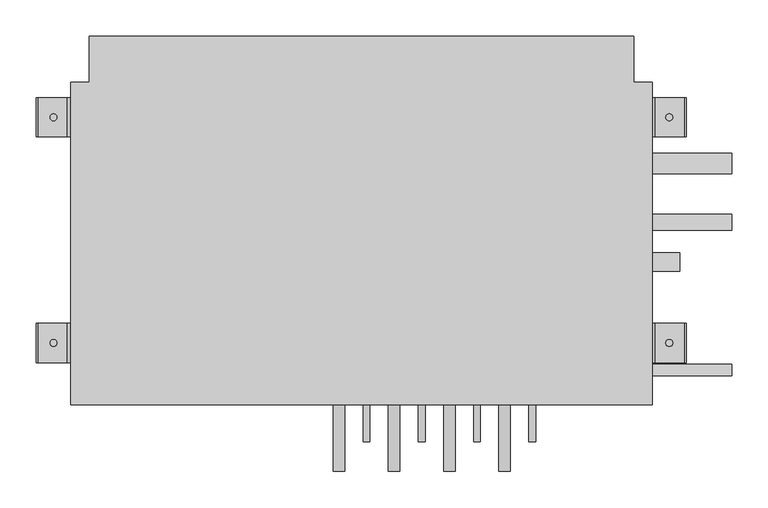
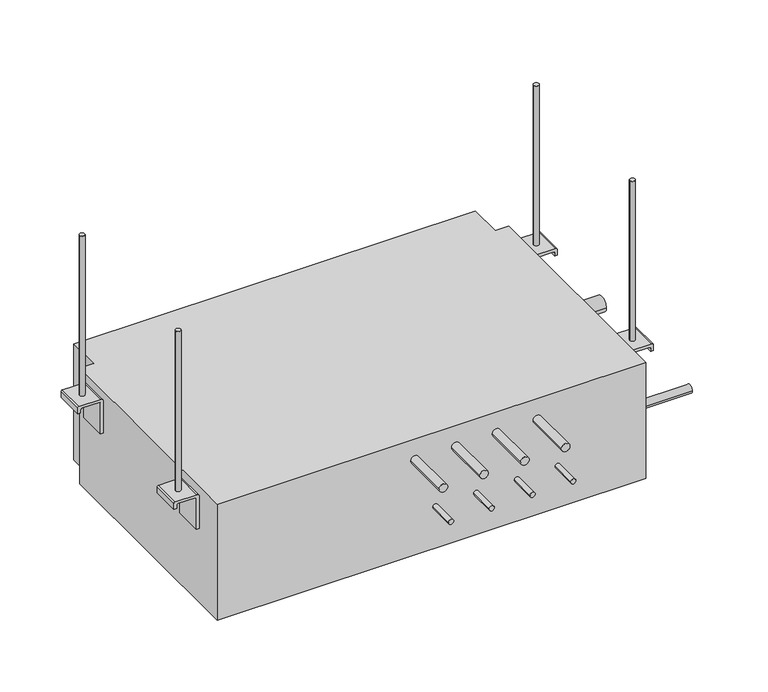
"""IFC4 building model written with IfcOpenShell, lengths in millimetres: proxy geometry, Lennox-VRF-Mode_Selection_Box-V8MSBB03-2P_Series : V8MSBB03."""

import ifcopenshell
import ifcopenshell.guid

model = None  # the IFC model being written
_history = None  # IfcOwnerHistory: only IFC2X3 demands one
_inside = {}  # id of a spatial element -> (the spatial element, [elements in it])
_under = {}  # id of a project, library or spatial element -> (it, [spatial elements below it])
_declared = {}  # id of a project -> (the project, [libraries it declares])
_typed = {}  # id of a type object -> (the type object, [elements of that type])
_made_of = {}  # id of a material, layer set ... -> (it, [elements and type objects made of it])


def new_model(schema):
    """Start an empty IFC model of exactly this schema.

    Asked for "IFC4X3", IfcOpenShell would pick the latest addendum, in which some entities
    have other attributes; the version numbers below select the first issue.
    IFC2X3 requires an IfcOwnerHistory on every rooted entity: one is made here for all.
    """
    global model, _history
    if schema == "IFC4X3":
        model = ifcopenshell.file(schema_version=(4, 3, 0, 0))
    else:
        model = ifcopenshell.file(schema=schema)
    _inside.clear()
    _under.clear()
    _declared.clear()
    _typed.clear()
    _made_of.clear()
    _history = None
    if model.schema == "IFC2X3":
        org = make("IfcOrganization", Name="unknown")
        user = make(
            "IfcPersonAndOrganization",
            ThePerson=make("IfcPerson", FamilyName="unknown"),
            TheOrganization=org,
        )
        app = make(
            "IfcApplication",
            ApplicationDeveloper=org,
            Version="unknown",
            ApplicationFullName="unknown",
            ApplicationIdentifier="unknown",
        )
        _history = make(
            "IfcOwnerHistory",
            OwningUser=user,
            OwningApplication=app,
            ChangeAction="ADDED",
            CreationDate=0,
        )
    return model


def make(cls, **values):
    """One entity of the class cls with the attributes given. An attribute that is None is left unset."""
    return model.create_entity(
        cls, **{name: value for name, value in values.items() if value is not None}
    )


def rooted(cls, **values):
    """An entity with a GlobalId (a new one), such as an element, a storey or a relation."""
    return make(cls, GlobalId=ifcopenshell.guid.new(), OwnerHistory=_history, **values)


def si_unit(unit_type, name, prefix=None):
    """IfcSIUnit, for example si_unit("LENGTHUNIT", "METRE", prefix="MILLI")."""
    return make("IfcSIUnit", UnitType=unit_type, Prefix=prefix, Name=name)


def assignment(units):
    """IfcUnitAssignment: the units of a project."""
    return None if units is None else make("IfcUnitAssignment", Units=units)


def point(xyz):
    """IfcCartesianPoint."""
    return None if xyz is None else make("IfcCartesianPoint", Coordinates=xyz)


def direction(xyz):
    """IfcDirection."""
    return None if xyz is None else make("IfcDirection", DirectionRatios=xyz)


def frame(location, z_axis=None, x_axis=None):
    """IfcAxis2Placement3D, a coordinate frame: its origin and axes. An axis left out is left unset."""
    return make(
        "IfcAxis2Placement3D",
        Location=point(location),
        Axis=direction(z_axis),
        RefDirection=direction(x_axis),
    )


def frame_2d(location, x_axis=None):
    """IfcAxis2Placement2D, a coordinate frame in the plane: its origin and x axis."""
    return make(
        "IfcAxis2Placement2D", Location=point(location), RefDirection=direction(x_axis)
    )


def origin():
    """The frame at (0, 0, 0) with its axes left unset."""
    return frame((0.0, 0.0, 0.0))


def origin_with_axes():
    """The frame at (0, 0, 0) with the z axis (0, 0, 1) and the x axis (1, 0, 0) written out."""
    return frame((0.0, 0.0, 0.0), z_axis=(0.0, 0.0, 1.0), x_axis=(1.0, 0.0, 0.0))


def place(relative_to, where):
    """IfcLocalPlacement: puts the frame where relative to a parent placement (None: the world)."""
    return make(
        "IfcLocalPlacement", PlacementRelTo=relative_to, RelativePlacement=where
    )


def context(
    kind, dimensions, precision=None, world=None, true_north=None, identifier=None
):
    """IfcGeometricRepresentationContext, for example the 3D "Model" context."""
    return make(
        "IfcGeometricRepresentationContext",
        ContextIdentifier=identifier,
        ContextType=kind,
        CoordinateSpaceDimension=dimensions,
        Precision=precision,
        WorldCoordinateSystem=world,
        TrueNorth=true_north,
    )


def project(units=None, contexts=None):
    """IfcProject with its units and contexts."""
    return rooted(
        "IfcProject",
        Name="project",
        RepresentationContexts=contexts,
        UnitsInContext=assignment(units),
    )


def spatial(cls, under=None, at=None, **own):
    """A site, building, storey or space (cls), placed at a placement, below another one or the project."""
    s = rooted(cls, ObjectPlacement=at, **own)
    if under is not None:
        _under.setdefault(under.id(), (under, []))[1].append(s)
    return s


def polyline(points):
    """IfcPolyline through the points."""
    return make("IfcPolyline", Points=[point(p) for p in points])


def circle_curve(where, radius):
    """IfcCircle in the frame where."""
    return make("IfcCircle", Position=where, Radius=radius)


def trimmed(basis, trim1, trim2, sense, master):
    """IfcTrimmedCurve: the piece of a basis curve between two trims."""
    return make(
        "IfcTrimmedCurve",
        BasisCurve=basis,
        Trim1=trim1,
        Trim2=trim2,
        SenseAgreement=sense,
        MasterRepresentation=master,
    )


def segment(curve, same_sense, transition):
    """IfcCompositeCurveSegment."""
    return make(
        "IfcCompositeCurveSegment",
        Transition=transition,
        SameSense=same_sense,
        ParentCurve=curve,
    )


def composite_curve(segments, self_intersect=None):
    """IfcCompositeCurve: segments joined end to end."""
    return make("IfcCompositeCurve", Segments=segments, SelfIntersect=self_intersect)


def outline(outer, holes=None, kind="AREA"):
    """IfcArbitraryClosedProfileDef: a profile drawn as a closed curve; with holes, ...WithVoids."""
    if holes is None:
        return make("IfcArbitraryClosedProfileDef", ProfileType=kind, OuterCurve=outer)
    return make(
        "IfcArbitraryProfileDefWithVoids",
        ProfileType=kind,
        OuterCurve=outer,
        InnerCurves=holes,
    )


def extrude(swept, where, along, depth):
    """IfcExtrudedAreaSolid: the profile swept, set in the frame where, extruded along a direction by depth."""
    return make(
        "IfcExtrudedAreaSolid",
        SweptArea=swept,
        Position=where,
        ExtrudedDirection=direction(along),
        Depth=depth,
    )


def shape(context_of_items, identifier, shape_type, items):
    """IfcShapeRepresentation: the items that make up one representation, for example the "Body"."""
    return make(
        "IfcShapeRepresentation",
        ContextOfItems=context_of_items,
        RepresentationIdentifier=identifier,
        RepresentationType=shape_type,
        Items=items,
    )


def source(mapping_origin, context_of_items, identifier, shape_type, items):
    """IfcRepresentationMap: a shape defined once, which mapped items show again and again."""
    return make(
        "IfcRepresentationMap",
        MappingOrigin=mapping_origin,
        MappedRepresentation=shape(context_of_items, identifier, shape_type, items),
    )


def transform(
    local_origin,
    x_axis=None,
    y_axis=None,
    z_axis=None,
    scale=None,
    scale2=None,
    scale3=None,
    uniform=True,
):
    """IfcCartesianTransformationOperator3D, or its non-uniform kind. x_axis, y_axis, z_axis: its Axis1, 2, 3."""
    if uniform:
        return make(
            "IfcCartesianTransformationOperator3D",
            Axis1=direction(x_axis),
            Axis2=direction(y_axis),
            LocalOrigin=point(local_origin),
            Scale=scale,
            Axis3=direction(z_axis),
        )
    return make(
        "IfcCartesianTransformationOperator3DnonUniform",
        Axis1=direction(x_axis),
        Axis2=direction(y_axis),
        LocalOrigin=point(local_origin),
        Scale=scale,
        Axis3=direction(z_axis),
        Scale2=scale2,
        Scale3=scale3,
    )


def mapped(mapping_source, mapping_target):
    """IfcMappedItem: shows the shape of a source again, moved by a transform."""
    return make(
        "IfcMappedItem", MappingSource=mapping_source, MappingTarget=mapping_target
    )


def made_of(thing, what):
    """Note that an element or type object is made of a material, layer set ...; save() writes the relation."""
    if what is not None:
        _made_of.setdefault(what.id(), (what, []))[1].append(thing)
    return thing


def element(
    cls,
    number,
    at=None,
    inside=None,
    cuts=None,
    type_object=None,
    material=None,
    context=None,
    identifier="Body",
    shape_type=None,
    held_by="IfcProductDefinitionShape",
    body=None,
    shapes=None,
    **own,
):
    """One element of the class cls, such as IfcWall. Its Tag is "e" and its number.

    at: its placement. inside: the storey or other place that contains it. cuts: it is an
    opening in that element (IfcRelVoidsElement). A single representation is given by context,
    identifier, shape_type and body (its items); several are given by shapes. held_by: the class
    of the entity that holds the representations. save() writes the other relations.
    """
    e = rooted(cls, Tag="e%d" % number, ObjectPlacement=at, **own)
    if body is not None:
        shapes = [shape(context, identifier, shape_type, body)]
    if shapes is not None:
        e.Representation = make(held_by, Representations=shapes)
    if inside is not None:
        _inside.setdefault(inside.id(), (inside, []))[1].append(e)
    if cuts is not None:
        rooted(
            "IfcRelVoidsElement", RelatingBuildingElement=cuts, RelatedOpeningElement=e
        )
    if type_object is not None:
        _typed.setdefault(type_object.id(), (type_object, []))[1].append(e)
    return made_of(e, material)


def aggregate(whole, parts):
    """IfcRelAggregates: a whole, such as a stair, and the parts it consists of."""
    return rooted("IfcRelAggregates", RelatingObject=whole, RelatedObjects=parts)


def save(model, path):
    """Write the relations noted so far, then the file.

    IfcRelAggregates (storeys below a building ...), IfcRelContainedInSpatialStructure (elements
    in a storey), IfcRelDefinesByType, IfcRelAssociatesMaterial and IfcRelDeclares: one each for
    every whole, place, type object, material and project.
    """
    for whole, parts in _under.values():
        aggregate(whole, parts)
    for where, things in _inside.values():
        rooted(
            "IfcRelContainedInSpatialStructure",
            RelatedElements=things,
            RelatingStructure=where,
        )
    for kind, things in _typed.values():
        rooted("IfcRelDefinesByType", RelatedObjects=things, RelatingType=kind)
    for what, things in _made_of.values():
        rooted("IfcRelAssociatesMaterial", RelatedObjects=things, RelatingMaterial=what)
    for by, libraries in _declared.values():
        rooted("IfcRelDeclares", RelatingContext=by, RelatedDefinitions=libraries)
    model.write(path)


def plane_surface(at):
    """IfcPlane: the flat surface through the origin of the frame at, square to its z axis."""
    return make("IfcPlane", Position=at)


def cylinder_surface(at, radius):
    """IfcCylindricalSurface: all points at the distance radius from the z axis of the frame at."""
    return make("IfcCylindricalSurface", Position=at, Radius=radius)


def revolved_surface(curve, axis_point, axis_direction):
    """IfcSurfaceOfRevolution: the curve turned about the line through axis_point along axis_direction."""
    return make(
        "IfcSurfaceOfRevolution",
        SweptCurve=make("IfcArbitraryOpenProfileDef", ProfileType="CURVE", Curve=curve),
        AxisPosition=make("IfcAxis1Placement", Location=point(axis_point), Axis=direction(axis_direction)),
    )


def advanced_brep(points, edges, surfaces, faces):
    """IfcAdvancedBrep: a solid bounded by faces that lie on surfaces and meet in shared edges.

    An edge is (start, end): straight between two places in points (the first is 0);
    or (start, end, curve); or (start, end, curve, False) where it runs against its curve.
    A face is (place in surfaces, loops), or (place, loops, False) where it looks against
    its surface's normal. A loop lists edges by number (the first is 1), with a minus sign
    where the edge is run from its end to its start. The first loop is the outer one.
    """
    corners = [point(p) for p in points]
    vertices = [make("IfcVertexPoint", VertexGeometry=c) for c in corners]
    made = []
    for start, end, *more in edges:
        made.append(
            make(
                "IfcEdgeCurve",
                EdgeStart=vertices[start],
                EdgeEnd=vertices[end],
                EdgeGeometry=more[0] if more else make("IfcPolyline", Points=[corners[start], corners[end]]),
                SameSense=more[1] if len(more) > 1 else True,
            )
        )
    hull = []
    for where, loops, *sense in faces:
        bounds = []
        for j, loop in enumerate(loops):
            ring = [make("IfcOrientedEdge", EdgeElement=made[abs(k) - 1], Orientation=k > 0) for k in loop]
            bounds.append(
                make(
                    "IfcFaceOuterBound" if j == 0 else "IfcFaceBound",
                    Bound=make("IfcEdgeLoop", EdgeList=ring),
                    Orientation=True,
                )
            )
        hull.append(make("IfcAdvancedFace", Bounds=bounds, FaceSurface=surfaces[where], SameSense=sense[0] if sense else True))
    return make("IfcAdvancedBrep", Outer=make("IfcClosedShell", CfsFaces=hull))


def mechanical_equipment_f876f0b1(model_context):
    return source(origin(), model_context, "Body", "SolidModel", [
        advanced_brep(
        [(-400.7941406, 115.2882187, 146.05), (-400.7941406, 115.2882187, 210.0259829), (-405.3981577, 115.2882187, 214.63), (-445.7521406, 115.2882187, 214.63), (-448.2921406, 115.2882187, 212.09), (-448.2921406, 115.2882187, 200.66), (-443.2121406, 115.2882187, 200.66), (-443.2121406, 115.2882187, 207.01), (-440.6721406, 115.2882187, 209.55), (-408.4141406, 115.2882187, 209.55), (-405.8741406, 115.2882187, 207.01), (-405.8741406, 115.2882187, 146.05), (-400.7941406, 169.164, 146.05), (-405.8741406, 169.164, 146.05), (-405.8741406, 169.164, 207.01), (-408.4141406, 169.164, 209.55), (-440.6721406, 169.164, 209.55), (-443.2121406, 169.164, 207.01), (-443.2121406, 169.164, 200.66), (-448.2921406, 169.164, 200.66), (-448.2921406, 169.164, 212.09), (-445.7521406, 169.164, 214.63), (-405.3981577, 169.164, 214.63), (-400.7941406, 169.164, 210.0259829), (-419.7806406, 142.2261094, 214.63), (-429.3056406, 142.2261094, 214.63), (-429.3056406, 142.2261094, 209.55), (-419.7806406, 142.2261094, 209.55), (-429.3056406, 142.2261094, 530.625), (-419.7806406, 142.2261094, 530.625), (-429.3056406, 142.2261094, 198.8375), (-419.7806406, 142.2261094, 198.8375)],
        [
            (0, 1),
            (1, 2, circle_curve(frame((-405.3981577, 115.2882187, 210.0259829), z_axis=(0.0, -1.0, 0.0), x_axis=(1.0, 0.0, 0.0)), 4.6040171)),
            (2, 3),
            (3, 4, circle_curve(frame((-445.7521406, 115.2882187, 212.09), z_axis=(0.0, -1.0, 0.0), x_axis=(1.0, 0.0, 0.0)), 2.54)),
            (4, 5),
            (5, 6),
            (6, 7),
            (7, 8, circle_curve(frame((-440.6721406, 115.2882187, 207.01), z_axis=(0.0, 1.0, 0.0), x_axis=(1.0, 0.0, 0.0)), 2.54)),
            (8, 9),
            (9, 10, circle_curve(frame((-408.4141406, 115.2882187, 207.01), z_axis=(0.0, 1.0, 0.0), x_axis=(1.0, 0.0, 0.0)), 2.54)),
            (10, 11),
            (11, 0),
            (12, 13),
            (13, 14),
            (14, 15, circle_curve(frame((-408.4141406, 169.164, 207.01), z_axis=(0.0, -1.0, 0.0), x_axis=(1.0, 0.0, 0.0)), 2.54)),
            (15, 16),
            (16, 17, circle_curve(frame((-440.6721406, 169.164, 207.01), z_axis=(0.0, -1.0, 0.0), x_axis=(1.0, 0.0, 0.0)), 2.54)),
            (17, 18),
            (18, 19),
            (19, 20),
            (20, 21, circle_curve(frame((-445.7521406, 169.164, 212.09), z_axis=(0.0, 1.0, 0.0), x_axis=(1.0, 0.0, 0.0)), 2.54)),
            (21, 22),
            (22, 23, circle_curve(frame((-405.3981577, 169.164, 210.0259829), z_axis=(0.0, 1.0, 0.0), x_axis=(1.0, 0.0, 0.0)), 4.6040171)),
            (23, 12),
            (0, 12),
            (23, 1),
            (22, 2),
            (21, 3),
            (24, 25, circle_curve(frame((-424.5431406, 142.2261094, 214.63), z_axis=(0.0, 0.0, -1.0), x_axis=(1.0, 0.0, 0.0)), 4.7625)),
            (25, 24, circle_curve(frame((-424.5431406, 142.2261094, 214.63), z_axis=(0.0, 0.0, -1.0), x_axis=(1.0, 0.0, 0.0)), 4.7625)),
            (20, 4),
            (19, 5),
            (18, 6),
            (17, 7),
            (16, 8),
            (15, 9),
            (26, 27, circle_curve(frame((-424.5431406, 142.2261094, 209.55), z_axis=(0.0, 0.0, 1.0), x_axis=(1.0, 0.0, 0.0)), 4.7625)),
            (27, 26, circle_curve(frame((-424.5431406, 142.2261094, 209.55), z_axis=(0.0, 0.0, 1.0), x_axis=(1.0, 0.0, 0.0)), 4.7625)),
            (14, 10),
            (13, 11),
            (28, 29, circle_curve(frame((-424.5431406, 142.2261094, 530.625), z_axis=(0.0, 0.0, 1.0), x_axis=(1.0, 0.0, 0.0)), 4.7625)),
            (29, 28, circle_curve(frame((-424.5431406, 142.2261094, 530.625), z_axis=(0.0, 0.0, 1.0), x_axis=(1.0, 0.0, 0.0)), 4.7625)),
            (30, 31, circle_curve(frame((-424.5431406, 142.2261094, 198.8375), z_axis=(0.0, 0.0, -1.0), x_axis=(1.0, 0.0, 0.0)), 4.7625)),
            (31, 30, circle_curve(frame((-424.5431406, 142.2261094, 198.8375), z_axis=(0.0, 0.0, -1.0), x_axis=(1.0, 0.0, 0.0)), 4.7625)),
            (28, 25),
            (24, 29),
            (31, 27),
            (26, 30),
        ],
        [
            plane_surface(frame((-400.7941406, 115.2882187, 210.0259829), z_axis=(0.0, -1.0, 0.0), x_axis=(0.0, 0.0, 1.0))),
            plane_surface(frame((-400.7941406, 169.164, 210.0259829), z_axis=(0.0, 1.0, 0.0), x_axis=(0.0, 0.0, -1.0))),
            plane_surface(frame((-400.7941406, 115.2882187, 146.05), z_axis=(1.0, 0.0, 0.0), x_axis=(0.0, 1.0, 0.0))),
            cylinder_surface(frame((-405.3981577, 169.164, 210.0259829), z_axis=(0.0, -1.0, 0.0), x_axis=(1.0, 0.0, 0.0)), 4.6040171),
            plane_surface(frame((-405.3981577, 115.2882187, 214.63), z_axis=(0.0, 0.0, 1.0), x_axis=(0.0, 1.0, 0.0))),
            cylinder_surface(frame((-445.7521406, 169.164, 212.09), z_axis=(0.0, -1.0, 0.0), x_axis=(1.0, 0.0, 0.0)), 2.54),
            plane_surface(frame((-448.2921406, 115.2882187, 212.09), z_axis=(-1.0, 0.0, 0.0), x_axis=(0.0, 1.0, 0.0))),
            plane_surface(frame((-448.2921406, 115.2882187, 200.66), z_axis=(0.0, 0.0, -1.0), x_axis=(0.0, 1.0, 0.0))),
            plane_surface(frame((-443.2121406, 115.2882187, 200.66), z_axis=(1.0, 0.0, 0.0), x_axis=(0.0, 1.0, 0.0))),
            revolved_surface(polyline([(-438.13214059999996, 169.164, 207.01), (-438.13214059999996, 115.2882187, 207.01)]), (-440.6721406, 169.164, 207.01), (0.0, 1.0, 0.0)),
            plane_surface(frame((-440.6721406, 115.2882187, 209.55), z_axis=(0.0, 0.0, -1.0), x_axis=(0.0, 1.0, 0.0))),
            revolved_surface(polyline([(-405.8741406, 169.164, 207.01), (-405.8741406, 115.2882187, 207.01)]), (-408.4141406, 169.164, 207.01), (0.0, 1.0, 0.0)),
            plane_surface(frame((-405.8741406, 115.2882187, 207.01), z_axis=(-1.0, 0.0, 0.0), x_axis=(0.0, 1.0, 0.0))),
            plane_surface(frame((-405.8741406, 115.2882187, 146.05), z_axis=(0.0, 0.0, -1.0), x_axis=(0.0, 1.0, 0.0))),
            plane_surface(frame((429.3056406, 142.2261094, 530.625), z_axis=(0.0, 0.0, 1.0), x_axis=(0.0, 1.0, 0.0))),
            plane_surface(frame((429.3056406, 142.2261094, 198.8375), z_axis=(0.0, 0.0, -1.0), x_axis=(0.0, -1.0, 0.0))),
            cylinder_surface(frame((-424.5431406, 142.2261094, 0.0), z_axis=(0.0, 0.0, 1.0), x_axis=(1.0, 0.0, 0.0)), 4.7625),
        ],
        [
            (0, [[1, 2, 3, 4, 5, 6, 7, 8, 9, 10, 11, 12]]),
            (1, [[13, 14, 15, 16, 17, 18, 19, 20, 21, 22, 23, 24]]),
            (2, [[-1, 25, -24, 26]]),
            (3, [[-2, -26, -23, 27]]),
            (4, [[-3, -27, -22, 28], [29, 30]]),
            (5, [[-4, -28, -21, 31]]),
            (6, [[-5, -31, -20, 32]]),
            (7, [[-6, -32, -19, 33]]),
            (8, [[-7, -33, -18, 34]]),
            (9, [[-8, -34, -17, 35]]),
            (10, [[-9, -35, -16, 36], [37, 38]]),
            (11, [[-10, -36, -15, 39]]),
            (12, [[-11, -39, -14, 40]]),
            (13, [[-12, -40, -13, -25]]),
            (14, [[41, 42]]),
            (15, [[43, 44]]),
            (16, [[-41, 45, -29, 46]]),
            (16, [[-44, 47, -37, 48]]),
            (16, [[-42, -46, -30, -45]]),
            (16, [[-43, -48, -38, -47]]),
        ],
    ),
        advanced_brep(
        [(-400.7941406, -195.834, 146.05), (-400.7941406, -195.834, 210.0259829), (-405.3981577, -195.834, 214.63), (-445.7521406, -195.834, 214.63), (-448.2921406, -195.834, 212.09), (-448.2921406, -195.834, 200.66), (-443.2121406, -195.834, 200.66), (-443.2121406, -195.834, 207.01), (-440.6721406, -195.834, 209.55), (-408.4141406, -195.834, 209.55), (-405.8741406, -195.834, 207.01), (-405.8741406, -195.834, 146.05), (-400.7941406, -141.986, 146.05), (-405.8741406, -141.986, 146.05), (-405.8741406, -141.986, 207.01), (-408.4141406, -141.986, 209.55), (-440.6721406, -141.986, 209.55), (-443.2121406, -141.986, 207.01), (-443.2121406, -141.986, 200.66), (-448.2921406, -141.986, 200.66), (-448.2921406, -141.986, 212.09), (-445.7521406, -141.986, 214.63), (-405.3981577, -141.986, 214.63), (-400.7941406, -141.986, 210.0259829), (-419.7806406, -168.91, 214.63), (-429.3056406, -168.91, 214.63), (-429.3056406, -168.91, 209.55), (-419.7806406, -168.91, 209.55), (-429.3056406, -168.91, 530.625), (-419.7806406, -168.91, 530.625), (-429.3056406, -168.91, 198.8375), (-419.7806406, -168.91, 198.8375)],
        [
            (0, 1),
            (1, 2, circle_curve(frame((-405.3981577, -195.834, 210.0259829), z_axis=(0.0, -1.0, 0.0), x_axis=(1.0, 0.0, 0.0)), 4.6040171)),
            (2, 3),
            (3, 4, circle_curve(frame((-445.7521406, -195.834, 212.09), z_axis=(0.0, -1.0, 0.0), x_axis=(1.0, 0.0, 0.0)), 2.54)),
            (4, 5),
            (5, 6),
            (6, 7),
            (7, 8, circle_curve(frame((-440.6721406, -195.834, 207.01), z_axis=(0.0, 1.0, 0.0), x_axis=(1.0, 0.0, 0.0)), 2.54)),
            (8, 9),
            (9, 10, circle_curve(frame((-408.4141406, -195.834, 207.01), z_axis=(0.0, 1.0, 0.0), x_axis=(1.0, 0.0, 0.0)), 2.54)),
            (10, 11),
            (11, 0),
            (12, 13),
            (13, 14),
            (14, 15, circle_curve(frame((-408.4141406, -141.986, 207.01), z_axis=(0.0, -1.0, 0.0), x_axis=(1.0, 0.0, 0.0)), 2.54)),
            (15, 16),
            (16, 17, circle_curve(frame((-440.6721406, -141.986, 207.01), z_axis=(0.0, -1.0, 0.0), x_axis=(1.0, 0.0, 0.0)), 2.54)),
            (17, 18),
            (18, 19),
            (19, 20),
            (20, 21, circle_curve(frame((-445.7521406, -141.986, 212.09), z_axis=(0.0, 1.0, 0.0), x_axis=(1.0, 0.0, 0.0)), 2.54)),
            (21, 22),
            (22, 23, circle_curve(frame((-405.3981577, -141.986, 210.0259829), z_axis=(0.0, 1.0, 0.0), x_axis=(1.0, 0.0, 0.0)), 4.6040171)),
            (23, 12),
            (0, 12),
            (23, 1),
            (22, 2),
            (21, 3),
            (24, 25, circle_curve(frame((-424.5431406, -168.91, 214.63), z_axis=(0.0, 0.0, -1.0), x_axis=(1.0, 0.0, 0.0)), 4.7625)),
            (25, 24, circle_curve(frame((-424.5431406, -168.91, 214.63), z_axis=(0.0, 0.0, -1.0), x_axis=(1.0, 0.0, 0.0)), 4.7625)),
            (20, 4),
            (19, 5),
            (18, 6),
            (17, 7),
            (16, 8),
            (15, 9),
            (26, 27, circle_curve(frame((-424.5431406, -168.91, 209.55), z_axis=(0.0, 0.0, 1.0), x_axis=(1.0, 0.0, 0.0)), 4.7625)),
            (27, 26, circle_curve(frame((-424.5431406, -168.91, 209.55), z_axis=(0.0, 0.0, 1.0), x_axis=(1.0, 0.0, 0.0)), 4.7625)),
            (14, 10),
            (13, 11),
            (28, 29, circle_curve(frame((-424.5431406, -168.91, 530.625), z_axis=(0.0, 0.0, 1.0), x_axis=(1.0, 0.0, 0.0)), 4.7625)),
            (29, 28, circle_curve(frame((-424.5431406, -168.91, 530.625), z_axis=(0.0, 0.0, 1.0), x_axis=(1.0, 0.0, 0.0)), 4.7625)),
            (30, 31, circle_curve(frame((-424.5431406, -168.91, 198.8375), z_axis=(0.0, 0.0, -1.0), x_axis=(1.0, 0.0, 0.0)), 4.7625)),
            (31, 30, circle_curve(frame((-424.5431406, -168.91, 198.8375), z_axis=(0.0, 0.0, -1.0), x_axis=(1.0, 0.0, 0.0)), 4.7625)),
            (28, 25),
            (24, 29),
            (31, 27),
            (26, 30),
        ],
        [
            plane_surface(frame((-400.7941406, -195.834, 210.0259829), z_axis=(0.0, -1.0, 0.0), x_axis=(0.0, 0.0, 1.0))),
            plane_surface(frame((-400.7941406, -141.986, 210.0259829), z_axis=(0.0, 1.0, 0.0), x_axis=(0.0, 0.0, -1.0))),
            plane_surface(frame((-400.7941406, -195.834, 146.05), z_axis=(1.0, 0.0, 0.0), x_axis=(0.0, 1.0, 0.0))),
            cylinder_surface(frame((-405.3981577, -141.986, 210.0259829), z_axis=(0.0, -1.0, 0.0), x_axis=(1.0, 0.0, 0.0)), 4.6040171),
            plane_surface(frame((-405.3981577, -195.834, 214.63), z_axis=(0.0, 0.0, 1.0), x_axis=(0.0, 1.0, 0.0))),
            cylinder_surface(frame((-445.7521406, -141.986, 212.09), z_axis=(0.0, -1.0, 0.0), x_axis=(1.0, 0.0, 0.0)), 2.54),
            plane_surface(frame((-448.2921406, -195.834, 212.09), z_axis=(-1.0, 0.0, 0.0), x_axis=(0.0, 1.0, 0.0))),
            plane_surface(frame((-448.2921406, -195.834, 200.66), z_axis=(0.0, 0.0, -1.0), x_axis=(0.0, 1.0, 0.0))),
            plane_surface(frame((-443.2121406, -195.834, 200.66), z_axis=(1.0, 0.0, 0.0), x_axis=(0.0, 1.0, 0.0))),
            revolved_surface(polyline([(-438.13214059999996, -141.986, 207.01), (-438.13214059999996, -195.834, 207.01)]), (-440.6721406, -141.986, 207.01), (0.0, 1.0, 0.0)),
            plane_surface(frame((-440.6721406, -195.834, 209.55), z_axis=(0.0, 0.0, -1.0), x_axis=(0.0, 1.0, 0.0))),
            revolved_surface(polyline([(-405.8741406, -141.986, 207.01), (-405.8741406, -195.834, 207.01)]), (-408.4141406, -141.986, 207.01), (0.0, 1.0, 0.0)),
            plane_surface(frame((-405.8741406, -195.834, 207.01), z_axis=(-1.0, 0.0, 0.0), x_axis=(0.0, 1.0, 0.0))),
            plane_surface(frame((-405.8741406, -195.834, 146.05), z_axis=(0.0, 0.0, -1.0), x_axis=(0.0, 1.0, 0.0))),
            plane_surface(frame((429.3056406, 142.2261094, 530.625), z_axis=(0.0, 0.0, 1.0), x_axis=(0.0, 1.0, 0.0))),
            plane_surface(frame((429.3056406, 142.2261094, 198.8375), z_axis=(0.0, 0.0, -1.0), x_axis=(0.0, -1.0, 0.0))),
            cylinder_surface(frame((-424.5431406, -168.91, 0.0), z_axis=(0.0, 0.0, 1.0), x_axis=(1.0, 0.0, 0.0)), 4.7625),
        ],
        [
            (0, [[1, 2, 3, 4, 5, 6, 7, 8, 9, 10, 11, 12]]),
            (1, [[13, 14, 15, 16, 17, 18, 19, 20, 21, 22, 23, 24]]),
            (2, [[-1, 25, -24, 26]]),
            (3, [[-2, -26, -23, 27]]),
            (4, [[-3, -27, -22, 28], [29, 30]]),
            (5, [[-4, -28, -21, 31]]),
            (6, [[-5, -31, -20, 32]]),
            (7, [[-6, -32, -19, 33]]),
            (8, [[-7, -33, -18, 34]]),
            (9, [[-8, -34, -17, 35]]),
            (10, [[-9, -35, -16, 36], [37, 38]]),
            (11, [[-10, -36, -15, 39]]),
            (12, [[-11, -39, -14, 40]]),
            (13, [[-12, -40, -13, -25]]),
            (14, [[41, 42]]),
            (15, [[43, 44]]),
            (16, [[-41, 45, -29, 46]]),
            (16, [[-44, 47, -37, 48]]),
            (16, [[-42, -46, -30, -45]]),
            (16, [[-43, -48, -38, -47]]),
        ],
    ),
        advanced_brep(
        [(405.8741406, 115.2882187, 146.05), (405.8741406, 115.2882187, 207.01), (408.4141406, 115.2882187, 209.55), (440.6721406, 115.2882187, 209.55), (443.2121406, 115.2882187, 207.01), (443.2121406, 115.2882187, 200.66), (448.2921406, 115.2882187, 200.66), (448.2921406, 115.2882187, 212.09), (445.7521406, 115.2882187, 214.63), (405.3981577, 115.2882187, 214.63), (400.7941406, 115.2882187, 210.0259829), (400.7941406, 115.2882187, 146.05), (405.8741406, 169.164, 146.05), (400.7941406, 169.164, 146.05), (400.7941406, 169.164, 210.0259829), (405.3981577, 169.164, 214.63), (445.7521406, 169.164, 214.63), (448.2921406, 169.164, 212.09), (448.2921406, 169.164, 200.66), (443.2121406, 169.164, 200.66), (443.2121406, 169.164, 207.01), (440.6721406, 169.164, 209.55), (408.4141406, 169.164, 209.55), (405.8741406, 169.164, 207.01), (419.7806406, 142.2261094, 209.55), (429.3056406, 142.2261094, 209.55), (429.3056406, 142.2261094, 214.63), (419.7806406, 142.2261094, 214.63), (419.7806406, 142.2261094, 530.625), (429.3056406, 142.2261094, 530.625), (419.7806406, 142.2261094, 198.8375), (429.3056406, 142.2261094, 198.8375)],
        [
            (0, 1),
            (1, 2, circle_curve(frame((408.4141406, 115.2882187, 207.01), z_axis=(0.0, 1.0, 0.0), x_axis=(1.0, 0.0, 0.0)), 2.54)),
            (2, 3),
            (3, 4, circle_curve(frame((440.6721406, 115.2882187, 207.01), z_axis=(0.0, 1.0, 0.0), x_axis=(1.0, 0.0, 0.0)), 2.54)),
            (4, 5),
            (5, 6),
            (6, 7),
            (7, 8, circle_curve(frame((445.7521406, 115.2882187, 212.09), z_axis=(0.0, -1.0, 0.0), x_axis=(1.0, 0.0, 0.0)), 2.54)),
            (8, 9),
            (9, 10, circle_curve(frame((405.3981577, 115.2882187, 210.0259829), z_axis=(0.0, -1.0, 0.0), x_axis=(1.0, 0.0, 0.0)), 4.6040171)),
            (10, 11),
            (11, 0),
            (12, 13),
            (13, 14),
            (14, 15, circle_curve(frame((405.3981577, 169.164, 210.0259829), z_axis=(0.0, 1.0, 0.0), x_axis=(1.0, 0.0, 0.0)), 4.6040171)),
            (15, 16),
            (16, 17, circle_curve(frame((445.7521406, 169.164, 212.09), z_axis=(0.0, 1.0, 0.0), x_axis=(1.0, 0.0, 0.0)), 2.54)),
            (17, 18),
            (18, 19),
            (19, 20),
            (20, 21, circle_curve(frame((440.6721406, 169.164, 207.01), z_axis=(0.0, -1.0, 0.0), x_axis=(1.0, 0.0, 0.0)), 2.54)),
            (21, 22),
            (22, 23, circle_curve(frame((408.4141406, 169.164, 207.01), z_axis=(0.0, -1.0, 0.0), x_axis=(1.0, 0.0, 0.0)), 2.54)),
            (23, 12),
            (0, 12),
            (23, 1),
            (22, 2),
            (21, 3),
            (24, 25, circle_curve(frame((424.5431406, 142.2261094, 209.55), z_axis=(0.0, 0.0, 1.0), x_axis=(1.0, 0.0, 0.0)), 4.7625)),
            (25, 24, circle_curve(frame((424.5431406, 142.2261094, 209.55), z_axis=(0.0, 0.0, 1.0), x_axis=(1.0, 0.0, 0.0)), 4.7625)),
            (20, 4),
            (19, 5),
            (18, 6),
            (17, 7),
            (16, 8),
            (15, 9),
            (26, 27, circle_curve(frame((424.5431406, 142.2261094, 214.63), z_axis=(0.0, 0.0, -1.0), x_axis=(1.0, 0.0, 0.0)), 4.7625)),
            (27, 26, circle_curve(frame((424.5431406, 142.2261094, 214.63), z_axis=(0.0, 0.0, -1.0), x_axis=(1.0, 0.0, 0.0)), 4.7625)),
            (14, 10),
            (13, 11),
            (28, 29, circle_curve(frame((424.5431406, 142.2261094, 530.625), z_axis=(0.0, 0.0, 1.0), x_axis=(1.0, 0.0, 0.0)), 4.7625)),
            (29, 28, circle_curve(frame((424.5431406, 142.2261094, 530.625), z_axis=(0.0, 0.0, 1.0), x_axis=(1.0, 0.0, 0.0)), 4.7625)),
            (30, 31, circle_curve(frame((424.5431406, 142.2261094, 198.8375), z_axis=(0.0, 0.0, -1.0), x_axis=(1.0, 0.0, 0.0)), 4.7625)),
            (31, 30, circle_curve(frame((424.5431406, 142.2261094, 198.8375), z_axis=(0.0, 0.0, -1.0), x_axis=(1.0, 0.0, 0.0)), 4.7625)),
            (28, 27),
            (26, 29),
            (31, 25),
            (24, 30),
        ],
        [
            plane_surface(frame((405.8741406, 115.2882187, 146.05), z_axis=(0.0, -1.0, 0.0), x_axis=(0.0, 0.0, 1.0))),
            plane_surface(frame((405.8741406, 169.164, 146.05), z_axis=(0.0, 1.0, 0.0), x_axis=(0.0, 0.0, -1.0))),
            plane_surface(frame((405.8741406, 115.2882187, 146.05), z_axis=(1.0, 0.0, 0.0), x_axis=(0.0, 1.0, 0.0))),
            revolved_surface(polyline([(410.9541406, 169.164, 207.01), (410.9541406, 115.2882187, 207.01)]), (408.4141406, 169.164, 207.01), (0.0, 1.0, 0.0)),
            plane_surface(frame((408.4141406, 115.2882187, 209.55), z_axis=(0.0, 0.0, -1.0), x_axis=(0.0, 1.0, 0.0))),
            revolved_surface(polyline([(443.2121406, 169.164, 207.01), (443.2121406, 115.2882187, 207.01)]), (440.6721406, 169.164, 207.01), (0.0, 1.0, 0.0)),
            plane_surface(frame((443.2121406, 115.2882187, 207.01), z_axis=(-1.0, 0.0, 0.0), x_axis=(0.0, 1.0, 0.0))),
            plane_surface(frame((443.2121406, 115.2882187, 200.66), z_axis=(0.0, 0.0, -1.0), x_axis=(0.0, 1.0, 0.0))),
            plane_surface(frame((448.2921406, 115.2882187, 200.66), z_axis=(1.0, 0.0, 0.0), x_axis=(0.0, 1.0, 0.0))),
            cylinder_surface(frame((445.7521406, 169.164, 212.09), z_axis=(0.0, -1.0, 0.0), x_axis=(1.0, 0.0, 0.0)), 2.54),
            plane_surface(frame((445.7521406, 115.2882187, 214.63), z_axis=(0.0, 0.0, 1.0), x_axis=(0.0, 1.0, 0.0))),
            cylinder_surface(frame((405.3981577, 169.164, 210.0259829), z_axis=(0.0, -1.0, 0.0), x_axis=(1.0, 0.0, 0.0)), 4.6040171),
            plane_surface(frame((400.7941406, 115.2882187, 210.0259829), z_axis=(-1.0, 0.0, 0.0), x_axis=(0.0, 1.0, 0.0))),
            plane_surface(frame((400.7941406, 115.2882187, 146.05), z_axis=(0.0, 0.0, -1.0), x_axis=(0.0, 1.0, 0.0))),
            plane_surface(frame((429.3056406, 142.2261094, 530.625), z_axis=(0.0, 0.0, 1.0), x_axis=(0.0, 1.0, 0.0))),
            plane_surface(frame((429.3056406, 142.2261094, 198.8375), z_axis=(0.0, 0.0, -1.0), x_axis=(0.0, -1.0, 0.0))),
            cylinder_surface(frame((424.5431406, 142.2261094, 198.8375), z_axis=(0.0, 0.0, 1.0), x_axis=(1.0, 0.0, 0.0)), 4.7625),
        ],
        [
            (0, [[1, 2, 3, 4, 5, 6, 7, 8, 9, 10, 11, 12]]),
            (1, [[13, 14, 15, 16, 17, 18, 19, 20, 21, 22, 23, 24]]),
            (2, [[-1, 25, -24, 26]]),
            (3, [[-2, -26, -23, 27]]),
            (4, [[-3, -27, -22, 28], [29, 30]]),
            (5, [[-4, -28, -21, 31]]),
            (6, [[-5, -31, -20, 32]]),
            (7, [[-6, -32, -19, 33]]),
            (8, [[-7, -33, -18, 34]]),
            (9, [[-8, -34, -17, 35]]),
            (10, [[-9, -35, -16, 36], [37, 38]]),
            (11, [[-10, -36, -15, 39]]),
            (12, [[-11, -39, -14, 40]]),
            (13, [[-12, -40, -13, -25]]),
            (14, [[41, 42]]),
            (15, [[43, 44]]),
            (16, [[-41, 45, -37, 46]]),
            (16, [[-44, 47, -29, 48]]),
            (16, [[-42, -46, -38, -45]]),
            (16, [[-43, -48, -30, -47]]),
        ],
    ),
        advanced_brep(
        [(405.8741406, -195.834, 146.05), (405.8741406, -195.834, 207.01), (408.4141406, -195.834, 209.55), (440.6721406, -195.834, 209.55), (443.2121406, -195.834, 207.01), (443.2121406, -195.834, 200.66), (448.2921406, -195.834, 200.66), (448.2921406, -195.834, 212.09), (445.7521406, -195.834, 214.63), (405.3981577, -195.834, 214.63), (400.7941406, -195.834, 210.0259829), (400.7941406, -195.834, 146.05), (405.8741406, -141.986, 146.05), (400.7941406, -141.986, 146.05), (400.7941406, -141.986, 210.0259829), (405.3981577, -141.986, 214.63), (445.7521406, -141.986, 214.63), (448.2921406, -141.986, 212.09), (448.2921406, -141.986, 200.66), (443.2121406, -141.986, 200.66), (443.2121406, -141.986, 207.01), (440.6721406, -141.986, 209.55), (408.4141406, -141.986, 209.55), (405.8741406, -141.986, 207.01), (419.7806406, -168.91, 209.55), (429.3056406, -168.91, 209.55), (429.3056406, -168.91, 214.63), (419.7806406, -168.91, 214.63), (419.7806406, -168.91, 530.625), (429.3056406, -168.91, 530.625), (419.7806406, -168.91, 198.8375), (429.3056406, -168.91, 198.8375)],
        [
            (0, 1),
            (1, 2, circle_curve(frame((408.4141406, -195.834, 207.01), z_axis=(0.0, 1.0, 0.0), x_axis=(1.0, 0.0, 0.0)), 2.54)),
            (2, 3),
            (3, 4, circle_curve(frame((440.6721406, -195.834, 207.01), z_axis=(0.0, 1.0, 0.0), x_axis=(1.0, 0.0, 0.0)), 2.54)),
            (4, 5),
            (5, 6),
            (6, 7),
            (7, 8, circle_curve(frame((445.7521406, -195.834, 212.09), z_axis=(0.0, -1.0, 0.0), x_axis=(1.0, 0.0, 0.0)), 2.54)),
            (8, 9),
            (9, 10, circle_curve(frame((405.3981577, -195.834, 210.0259829), z_axis=(0.0, -1.0, 0.0), x_axis=(1.0, 0.0, 0.0)), 4.6040171)),
            (10, 11),
            (11, 0),
            (12, 13),
            (13, 14),
            (14, 15, circle_curve(frame((405.3981577, -141.986, 210.0259829), z_axis=(0.0, 1.0, 0.0), x_axis=(1.0, 0.0, 0.0)), 4.6040171)),
            (15, 16),
            (16, 17, circle_curve(frame((445.7521406, -141.986, 212.09), z_axis=(0.0, 1.0, 0.0), x_axis=(1.0, 0.0, 0.0)), 2.54)),
            (17, 18),
            (18, 19),
            (19, 20),
            (20, 21, circle_curve(frame((440.6721406, -141.986, 207.01), z_axis=(0.0, -1.0, 0.0), x_axis=(1.0, 0.0, 0.0)), 2.54)),
            (21, 22),
            (22, 23, circle_curve(frame((408.4141406, -141.986, 207.01), z_axis=(0.0, -1.0, 0.0), x_axis=(1.0, 0.0, 0.0)), 2.54)),
            (23, 12),
            (0, 12),
            (23, 1),
            (22, 2),
            (21, 3),
            (24, 25, circle_curve(frame((424.5431406, -168.91, 209.55), z_axis=(0.0, 0.0, 1.0), x_axis=(1.0, 0.0, 0.0)), 4.7625)),
            (25, 24, circle_curve(frame((424.5431406, -168.91, 209.55), z_axis=(0.0, 0.0, 1.0), x_axis=(1.0, 0.0, 0.0)), 4.7625)),
            (20, 4),
            (19, 5),
            (18, 6),
            (17, 7),
            (16, 8),
            (15, 9),
            (26, 27, circle_curve(frame((424.5431406, -168.91, 214.63), z_axis=(0.0, 0.0, -1.0), x_axis=(1.0, 0.0, 0.0)), 4.7625)),
            (27, 26, circle_curve(frame((424.5431406, -168.91, 214.63), z_axis=(0.0, 0.0, -1.0), x_axis=(1.0, 0.0, 0.0)), 4.7625)),
            (14, 10),
            (13, 11),
            (28, 29, circle_curve(frame((424.5431406, -168.91, 530.625), z_axis=(0.0, 0.0, 1.0), x_axis=(1.0, 0.0, 0.0)), 4.7625)),
            (29, 28, circle_curve(frame((424.5431406, -168.91, 530.625), z_axis=(0.0, 0.0, 1.0), x_axis=(1.0, 0.0, 0.0)), 4.7625)),
            (30, 31, circle_curve(frame((424.5431406, -168.91, 198.8375), z_axis=(0.0, 0.0, -1.0), x_axis=(1.0, 0.0, 0.0)), 4.7625)),
            (31, 30, circle_curve(frame((424.5431406, -168.91, 198.8375), z_axis=(0.0, 0.0, -1.0), x_axis=(1.0, 0.0, 0.0)), 4.7625)),
            (28, 27),
            (26, 29),
            (31, 25),
            (24, 30),
        ],
        [
            plane_surface(frame((405.8741406, -195.834, 146.05), z_axis=(0.0, -1.0, 0.0), x_axis=(0.0, 0.0, 1.0))),
            plane_surface(frame((405.8741406, -141.986, 146.05), z_axis=(0.0, 1.0, 0.0), x_axis=(0.0, 0.0, -1.0))),
            plane_surface(frame((405.8741406, -195.834, 146.05), z_axis=(1.0, 0.0, 0.0), x_axis=(0.0, 1.0, 0.0))),
            revolved_surface(polyline([(410.9541406, -141.986, 207.01), (410.9541406, -195.834, 207.01)]), (408.4141406, -141.986, 207.01), (0.0, 1.0, 0.0)),
            plane_surface(frame((408.4141406, -195.834, 209.55), z_axis=(0.0, 0.0, -1.0), x_axis=(0.0, 1.0, 0.0))),
            revolved_surface(polyline([(443.2121406, -141.986, 207.01), (443.2121406, -195.834, 207.01)]), (440.6721406, -141.986, 207.01), (0.0, 1.0, 0.0)),
            plane_surface(frame((443.2121406, -195.834, 207.01), z_axis=(-1.0, 0.0, 0.0), x_axis=(0.0, 1.0, 0.0))),
            plane_surface(frame((443.2121406, -195.834, 200.66), z_axis=(0.0, 0.0, -1.0), x_axis=(0.0, 1.0, 0.0))),
            plane_surface(frame((448.2921406, -195.834, 200.66), z_axis=(1.0, 0.0, 0.0), x_axis=(0.0, 1.0, 0.0))),
            cylinder_surface(frame((445.7521406, -141.986, 212.09), z_axis=(0.0, -1.0, 0.0), x_axis=(1.0, 0.0, 0.0)), 2.54),
            plane_surface(frame((445.7521406, -195.834, 214.63), z_axis=(0.0, 0.0, 1.0), x_axis=(0.0, 1.0, 0.0))),
            cylinder_surface(frame((405.3981577, -141.986, 210.0259829), z_axis=(0.0, -1.0, 0.0), x_axis=(1.0, 0.0, 0.0)), 4.6040171),
            plane_surface(frame((400.7941406, -195.834, 210.0259829), z_axis=(-1.0, 0.0, -2.0734534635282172e-12), x_axis=(0.0, 1.0, 0.0))),
            plane_surface(frame((400.7941406, -195.834, 146.05), z_axis=(0.0, 0.0, -1.0), x_axis=(0.0, 1.0, 0.0))),
            plane_surface(frame((429.3056406, 142.2261094, 530.625), z_axis=(0.0, 0.0, 1.0), x_axis=(0.0, 1.0, 0.0))),
            plane_surface(frame((429.3056406, 142.2261094, 198.8375), z_axis=(0.0, 0.0, -1.0), x_axis=(0.0, -1.0, 0.0))),
            cylinder_surface(frame((424.5431406, -168.91, 0.0), z_axis=(0.0, 0.0, 1.0), x_axis=(1.0, 0.0, 0.0)), 4.7625),
        ],
        [
            (0, [[1, 2, 3, 4, 5, 6, 7, 8, 9, 10, 11, 12]]),
            (1, [[13, 14, 15, 16, 17, 18, 19, 20, 21, 22, 23, 24]]),
            (2, [[-1, 25, -24, 26]]),
            (3, [[-2, -26, -23, 27]]),
            (4, [[-3, -27, -22, 28], [29, 30]]),
            (5, [[-4, -28, -21, 31]]),
            (6, [[-5, -31, -20, 32]]),
            (7, [[-6, -32, -19, 33]]),
            (8, [[-7, -33, -18, 34]]),
            (9, [[-8, -34, -17, 35]]),
            (10, [[-9, -35, -16, 36], [37, 38]]),
            (11, [[-10, -36, -15, 39]]),
            (12, [[-11, -39, -14, 40]]),
            (13, [[-12, -40, -13, -25]]),
            (14, [[41, 42]]),
            (15, [[43, 44]]),
            (16, [[-41, 45, -37, 46]]),
            (16, [[-44, 47, -29, 48]]),
            (16, [[-42, -46, -38, -45]]),
            (16, [[-43, -48, -30, -47]]),
        ],
    ),
        extrude(outline(composite_curve([segment(trimmed(circle_curve(frame_2d((82.55, 235.6941406)), 4.7625), [point((82.55, 230.9316406))], [point((82.55, 240.4566406))], False, "CARTESIAN"), True, "CONTINUOUS"), segment(trimmed(circle_curve(frame_2d((82.55, 235.6941406)), 4.7625), [point((82.55, 240.4566406))], [point((82.55, 230.9316406))], False, "CARTESIAN"), True, "CONTINUOUS")], self_intersect=False)), frame((0.0, -304.8, 0.0), z_axis=(0.0, 1.0, 0.0), x_axis=(0.0, 0.0, 1.0)), (0.0, 0.0, 1.0), 50.8),
        extrude(outline(composite_curve([segment(trimmed(circle_curve(frame_2d((82.55, 159.4941406)), 4.7625), [point((82.55, 154.7316406))], [point((82.55, 164.2566406))], False, "CARTESIAN"), True, "CONTINUOUS"), segment(trimmed(circle_curve(frame_2d((82.55, 159.4941406)), 4.7625), [point((82.55, 164.2566406))], [point((82.55, 154.7316406))], False, "CARTESIAN"), True, "CONTINUOUS")], self_intersect=False)), frame((0.0, -304.8, 0.0), z_axis=(0.0, 1.0, 0.0), x_axis=(0.0, 0.0, 1.0)), (0.0, 0.0, 1.0), 50.8),
        extrude(outline(composite_curve([segment(trimmed(circle_curve(frame_2d((82.55, 83.2941406)), 4.7625), [point((82.55, 78.5316406))], [point((82.55, 88.0566406))], False, "CARTESIAN"), True, "CONTINUOUS"), segment(trimmed(circle_curve(frame_2d((82.55, 83.2941406)), 4.7625), [point((82.55, 88.0566406))], [point((82.55, 78.5316406))], False, "CARTESIAN"), True, "CONTINUOUS")], self_intersect=False)), frame((0.0, -304.8, 0.0), z_axis=(0.0, 1.0, 0.0), x_axis=(0.0, 0.0, 1.0)), (0.0, 0.0, 1.0), 50.8),
        extrude(outline(composite_curve([segment(trimmed(circle_curve(frame_2d((82.55, 7.0941406)), 4.7625), [point((82.55, 2.3316406))], [point((82.55, 11.8566406))], False, "CARTESIAN"), True, "CONTINUOUS"), segment(trimmed(circle_curve(frame_2d((82.55, 7.0941406)), 4.7625), [point((82.55, 11.8566406))], [point((82.55, 2.3316406))], False, "CARTESIAN"), True, "CONTINUOUS")], self_intersect=False)), frame((0.0, -304.8, 0.0), z_axis=(0.0, 1.0, 0.0), x_axis=(0.0, 0.0, 1.0)), (0.0, 0.0, 1.0), 50.8),
        extrude(outline(composite_curve([segment(trimmed(circle_curve(frame_2d((187.96, 197.5941406)), 7.9375), [point((187.96, 189.6566406))], [point((187.96, 205.5316406))], False, "CARTESIAN"), True, "CONTINUOUS"), segment(trimmed(circle_curve(frame_2d((187.96, 197.5941406)), 7.9375), [point((187.96, 205.5316406))], [point((187.96, 189.6566406))], False, "CARTESIAN"), True, "CONTINUOUS")], self_intersect=False)), frame((0.0, -346.0, 0.0), z_axis=(0.0, 1.0, 0.0), x_axis=(0.0, 0.0, 1.0)), (0.0, 0.0, 1.0), 92.0),
        extrude(outline(composite_curve([segment(trimmed(circle_curve(frame_2d((187.96, 121.3941406)), 7.9375), [point((187.96, 113.4566406))], [point((187.96, 129.3316406))], False, "CARTESIAN"), True, "CONTINUOUS"), segment(trimmed(circle_curve(frame_2d((187.96, 121.3941406)), 7.9375), [point((187.96, 129.3316406))], [point((187.96, 113.4566406))], False, "CARTESIAN"), True, "CONTINUOUS")], self_intersect=False)), frame((0.0, -346.0, 0.0), z_axis=(0.0, 1.0, 0.0), x_axis=(0.0, 0.0, 1.0)), (0.0, 0.0, 1.0), 92.0),
        extrude(outline(composite_curve([segment(trimmed(circle_curve(frame_2d((187.96, 45.1941406)), 7.9375), [point((187.96, 37.2566406))], [point((187.96, 53.1316406))], False, "CARTESIAN"), True, "CONTINUOUS"), segment(trimmed(circle_curve(frame_2d((187.96, 45.1941406)), 7.9375), [point((187.96, 53.1316406))], [point((187.96, 37.2566406))], False, "CARTESIAN"), True, "CONTINUOUS")], self_intersect=False)), frame((0.0, -346.0, 0.0), z_axis=(0.0, 1.0, 0.0), x_axis=(0.0, 0.0, 1.0)), (0.0, 0.0, 1.0), 92.0),
        extrude(outline(composite_curve([segment(trimmed(circle_curve(frame_2d((187.96, -31.0058594)), 7.9375), [point((187.96, -38.9433594))], [point((187.96, -23.0683594))], False, "CARTESIAN"), True, "CONTINUOUS"), segment(trimmed(circle_curve(frame_2d((187.96, -31.0058594)), 7.9375), [point((187.96, -23.0683594))], [point((187.96, -38.9433594))], False, "CARTESIAN"), True, "CONTINUOUS")], self_intersect=False)), frame((0.0, -346.0, 0.0), z_axis=(0.0, 1.0, 0.0), x_axis=(0.0, 0.0, 1.0)), (0.0, 0.0, 1.0), 92.0),
        extrude(outline(composite_curve([segment(trimmed(circle_curve(frame_2d((78.74, 105.41)), 14.2875), [point((64.4525, 105.41))], [point((93.0275, 105.41))], False, "CARTESIAN"), True, "CONTINUOUS"), segment(trimmed(circle_curve(frame_2d((78.74, 105.41)), 14.2875), [point((93.0275, 105.41))], [point((64.4525, 105.41))], False, "CARTESIAN"), True, "CONTINUOUS")], self_intersect=False)), frame((400.7941406, 0.0, 0.0), z_axis=(1.0, 0.0, 0.0), x_axis=(0.0, 1.0, 0.0)), (0.0, 0.0, 1.0), 109.9137188),
        extrude(outline(composite_curve([segment(trimmed(circle_curve(frame_2d((-2.54, 75.438)), 11.1125), [point((-13.6525, 75.438))], [point((8.5725, 75.438))], False, "CARTESIAN"), True, "CONTINUOUS"), segment(trimmed(circle_curve(frame_2d((-2.54, 75.438)), 11.1125), [point((8.5725, 75.438))], [point((-13.6525, 75.438))], False, "CARTESIAN"), True, "CONTINUOUS")], self_intersect=False)), frame((400.7941406, 0.0, 0.0), z_axis=(1.0, 0.0, 0.0), x_axis=(0.0, 1.0, 0.0)), (0.0, 0.0, 1.0), 109.9137188),
        extrude(outline(composite_curve([segment(trimmed(circle_curve(frame_2d((-57.15, 19.685)), 12.7), [point((-69.85, 19.685))], [point((-44.45, 19.685))], False, "CARTESIAN"), True, "CONTINUOUS"), segment(trimmed(circle_curve(frame_2d((-57.15, 19.685)), 12.7), [point((-44.45, 19.685))], [point((-69.85, 19.685))], False, "CARTESIAN"), True, "CONTINUOUS")], self_intersect=False)), frame((400.7941406, 0.0, 0.0), z_axis=(1.0, 0.0, 0.0), x_axis=(0.0, 1.0, 0.0)), (0.0, 0.0, 1.0), 38.1),
        extrude(outline(composite_curve([segment(trimmed(circle_curve(frame_2d((-206.0956, 109.982)), 7.9375), [point((-214.0331, 109.982))], [point((-198.1581, 109.982))], False, "CARTESIAN"), True, "CONTINUOUS"), segment(trimmed(circle_curve(frame_2d((-206.0956, 109.982)), 7.9375), [point((-198.1581, 109.982))], [point((-214.0331, 109.982))], False, "CARTESIAN"), True, "CONTINUOUS")], self_intersect=False)), frame((400.7941406, 0.0, 0.0), z_axis=(1.0, 0.0, 0.0), x_axis=(0.0, 1.0, 0.0)), (0.0, 0.0, 1.0), 109.9137188),
        extrude(outline(polyline([(375.3941406, 254.0), (375.3941406, 190.5), (400.7941406, 190.5), (400.7941406, -254.0), (-400.7941406, -254.0), (-400.7941406, 190.5), (-375.3941406, 190.5), (-375.3941406, 254.0), (375.3941406, 254.0)])), origin_with_axes(), (0.0, 0.0, 1.0), 229.0),
    ])


if __name__ == "__main__":
    model = new_model("IFC4")
    model_context = context("Model", 3, world=origin())
    ifc_project = project(units=[si_unit("LENGTHUNIT", "METRE", prefix="MILLI")], contexts=[model_context])
    site = spatial("IfcSite", under=ifc_project)
    building = spatial("IfcBuilding", under=site)
    placement = place(None, origin())
    mechanical_equipment_shape = mechanical_equipment_f876f0b1(model_context)
    element("IfcBuildingElementProxy", 1, Name="Lennox-VRF-Mode_Selection_Box-V8MSBB03-2P_Series : V8MSBB03", ObjectType="Lennox-VRF-Mode_Selection_Box-V8MSBB03-2P_Series : V8MSBB03", at=placement, inside=building, context=model_context, shape_type="MappedRepresentation", body=[
        mapped(mechanical_equipment_shape, transform((0.0, 0.0, 0.0), x_axis=(1.0, 0.0, 0.0), y_axis=(0.0, 1.0, 0.0), z_axis=(0.0, 0.0, 1.0))),
    ])
    save(model, "model.ifc")
